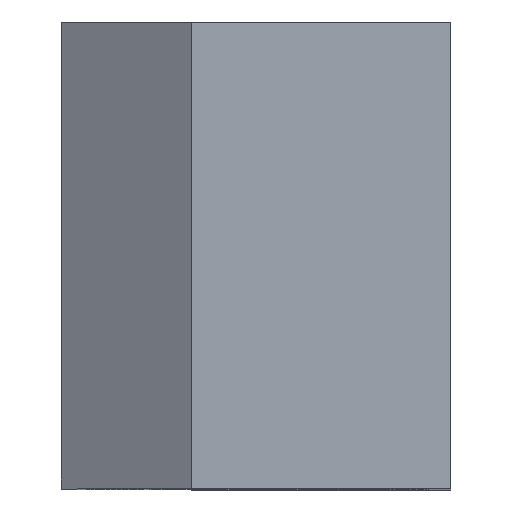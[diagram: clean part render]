
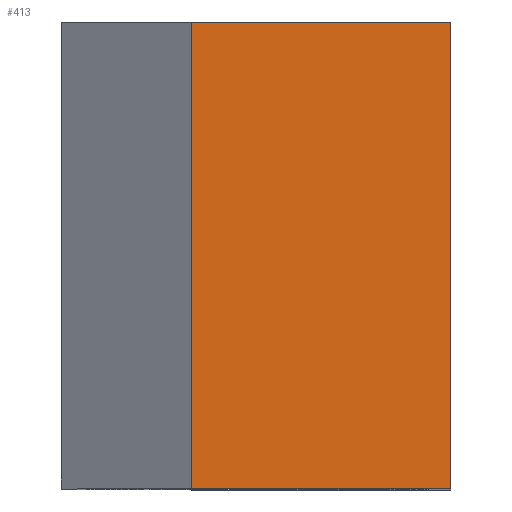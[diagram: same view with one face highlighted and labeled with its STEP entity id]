
A CAD part, top view. The second image highlights one B-rep face of the part: STEP entity #413.
In plain terms, the highlighted free-form (B-spline) face has degree [1, 1] with [2, 2] control points.
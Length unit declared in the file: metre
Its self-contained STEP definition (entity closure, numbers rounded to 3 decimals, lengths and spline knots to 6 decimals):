
#17=LINE('',#688,#35);
#19=LINE('',#695,#37);
#20=LINE('',#697,#38);
#21=LINE('',#699,#39);
#35=VECTOR('',#502,1.);
#37=VECTOR('',#504,1.);
#38=VECTOR('',#505,1.);
#39=VECTOR('',#506,1.);
#50=B_SPLINE_SURFACE_WITH_KNOTS('',1,1,((#691,#692),(#693,#694)),
 .PLANE_SURF.,.F.,.F.,.F.,(2,2),(2,2),(0.,1.),(0.,1.),.UNSPECIFIED.);
#106=ORIENTED_EDGE('',*,*,#225,.T.);
#107=ORIENTED_EDGE('',*,*,#226,.F.);
#108=ORIENTED_EDGE('',*,*,#227,.F.);
#109=ORIENTED_EDGE('',*,*,#223,.T.);
#223=EDGE_CURVE('',#283,#282,#17,.T.);
#225=EDGE_CURVE('',#282,#284,#19,.T.);
#226=EDGE_CURVE('',#285,#284,#20,.T.);
#227=EDGE_CURVE('',#283,#285,#21,.T.);
#282=VERTEX_POINT('',#687);
#283=VERTEX_POINT('',#689);
#284=VERTEX_POINT('',#696);
#285=VERTEX_POINT('',#698);
#327=EDGE_LOOP('',(#106,#107,#108,#109));
#363=FACE_BOUND('',#327,.T.);
#413=ADVANCED_FACE('',(#363),#50,.F.);
#502=DIRECTION('',(0.,1.,0.));
#504=DIRECTION('',(-1.,0.,0.));
#505=DIRECTION('',(0.,1.,0.));
#506=DIRECTION('',(-1.,0.,0.));
#687=CARTESIAN_POINT('',(-0.007233,0.,0.194404));
#688=CARTESIAN_POINT('',(-0.007233,-0.036,0.194404));
#689=CARTESIAN_POINT('',(-0.007233,-0.036,0.194404));
#691=CARTESIAN_POINT('',(-0.006235,-0.0378,0.194404));
#692=CARTESIAN_POINT('',(-0.006235,0.0018,0.194404));
#693=CARTESIAN_POINT('',(-0.028208,-0.0378,0.194404));
#694=CARTESIAN_POINT('',(-0.028208,0.0018,0.194404));
#695=CARTESIAN_POINT('',(-0.017221,0.,0.194404));
#696=CARTESIAN_POINT('',(-0.027209,0.,0.194404));
#697=CARTESIAN_POINT('',(-0.027209,-0.036,0.194404));
#698=CARTESIAN_POINT('',(-0.027209,-0.036,0.194404));
#699=CARTESIAN_POINT('',(-0.017221,-0.036,0.194404));
